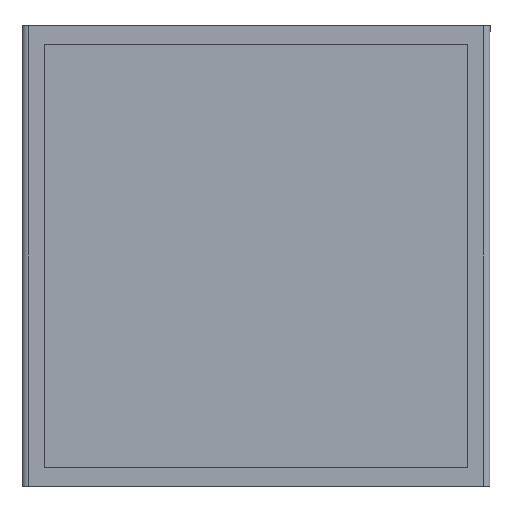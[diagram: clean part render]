
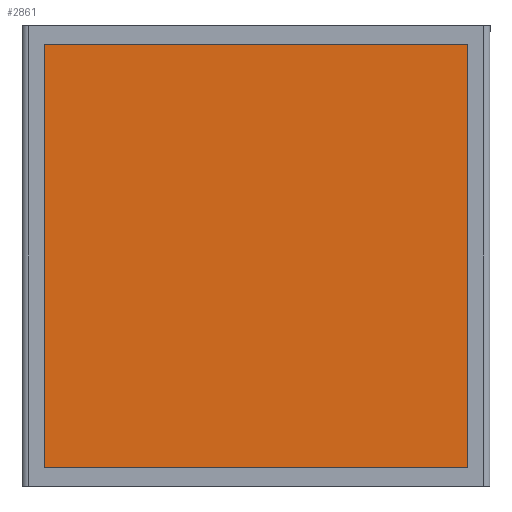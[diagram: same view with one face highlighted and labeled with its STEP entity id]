
A CAD part, front view. The second image highlights one B-rep face of the part: STEP entity #2861.
In plain terms, the highlighted planar face has unit normal (0, -1, 0).
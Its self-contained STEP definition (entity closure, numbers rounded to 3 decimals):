
#372 = CARTESIAN_POINT ( 'NONE',  ( -9.011, -2.481, 10.369 ) ) ;
#586 = CARTESIAN_POINT ( 'NONE',  ( -9.011, -2.481, -6.631 ) ) ;
#599 = VERTEX_POINT ( 'NONE', #3789 ) ;
#678 = CARTESIAN_POINT ( 'NONE',  ( 7.989, -2.481, -6.631 ) ) ;
#780 = ORIENTED_EDGE ( 'NONE', *, *, #4010, .F. ) ;
#1249 = CARTESIAN_POINT ( 'NONE',  ( -9.011, -2.481, -6.631 ) ) ;
#1298 = VERTEX_POINT ( 'NONE', #1668 ) ;
#1668 = CARTESIAN_POINT ( 'NONE',  ( 7.989, -2.481, 10.369 ) ) ;
#1706 = VERTEX_POINT ( 'NONE', #3527 ) ;
#1711 = CARTESIAN_POINT ( 'NONE',  ( -9.011, -2.481, -6.631 ) ) ;
#1855 = ORIENTED_EDGE ( 'NONE', *, *, #3248, .F. ) ;
#1919 = DIRECTION ( 'NONE',  ( 1., 0., 0. ) ) ;
#1927 = EDGE_CURVE ( 'NONE', #1298, #599, #2068, .T. ) ;
#1931 = VECTOR ( 'NONE', #3231, 1000. ) ;
#2068 = LINE ( 'NONE', #678, #4155 ) ;
#2150 = EDGE_LOOP ( 'NONE', ( #1855, #780, #3139, #2917 ) ) ;
#2266 = EDGE_CURVE ( 'NONE', #1706, #1298, #2601, .T. ) ;
#2388 = VECTOR ( 'NONE', #2525, 1000. ) ;
#2525 = DIRECTION ( 'NONE',  ( 0., 0., 1. ) ) ;
#2601 = LINE ( 'NONE', #4201, #3164 ) ;
#2611 = DIRECTION ( 'NONE',  ( 0., 0., -1. ) ) ;
#2748 = VERTEX_POINT ( 'NONE', #586 ) ;
#2861 = ADVANCED_FACE ( 'NONE', ( #4003 ), #3341, .F. ) ;
#2917 = ORIENTED_EDGE ( 'NONE', *, *, #2266, .F. ) ;
#3031 = DIRECTION ( 'NONE',  ( 0., 1., 0. ) ) ;
#3139 = ORIENTED_EDGE ( 'NONE', *, *, #1927, .F. ) ;
#3164 = VECTOR ( 'NONE', #1919, 1000. ) ;
#3231 = DIRECTION ( 'NONE',  ( -1., 0., 0. ) ) ;
#3248 = EDGE_CURVE ( 'NONE', #2748, #1706, #3815, .T. ) ;
#3279 = LINE ( 'NONE', #1711, #1931 ) ;
#3341 = PLANE ( 'NONE',  #3584 ) ;
#3377 = DIRECTION ( 'NONE',  ( 0., 0., 1. ) ) ;
#3527 = CARTESIAN_POINT ( 'NONE',  ( -9.011, -2.481, 10.369 ) ) ;
#3584 = AXIS2_PLACEMENT_3D ( 'NONE', #372, #3031, #3377 ) ;
#3789 = CARTESIAN_POINT ( 'NONE',  ( 7.989, -2.481, -6.631 ) ) ;
#3815 = LINE ( 'NONE', #1249, #2388 ) ;
#4003 = FACE_OUTER_BOUND ( 'NONE', #2150, .T. ) ;
#4010 = EDGE_CURVE ( 'NONE', #599, #2748, #3279, .T. ) ;
#4155 = VECTOR ( 'NONE', #2611, 1000. ) ;
#4201 = CARTESIAN_POINT ( 'NONE',  ( -9.011, -2.481, 10.369 ) ) ;
